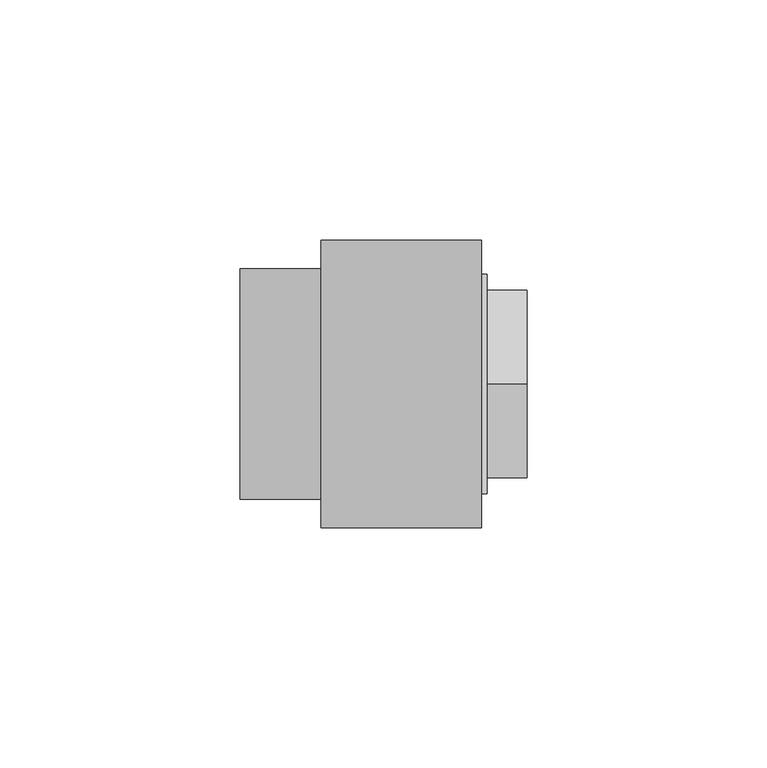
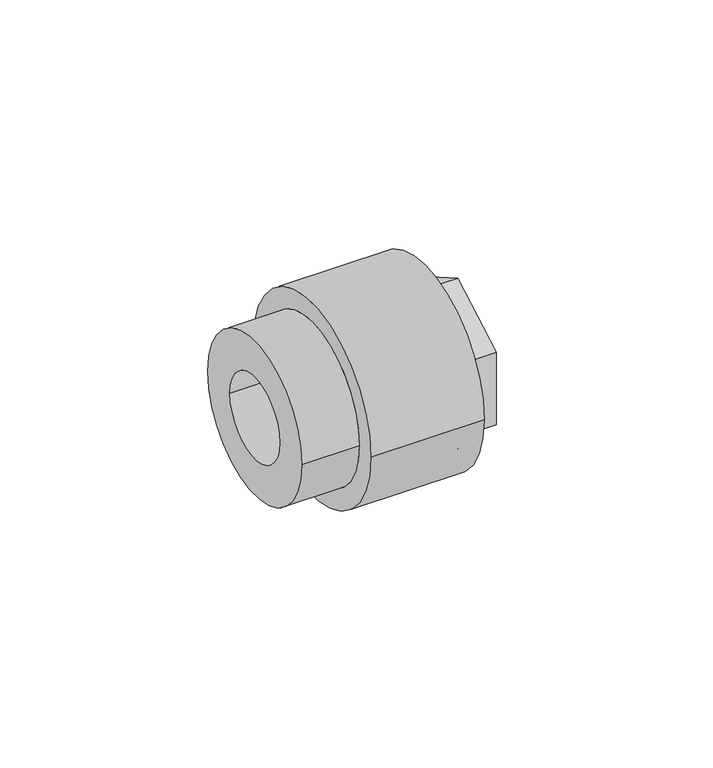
"""IFC4 building model written with IfcOpenShell, lengths in millimetres: pipe fitting geometry, Aquatherm - Fusion Outlet Transition Female : POTABLE BRASS - HEX."""

from ifc_helpers import new_model, si_unit, frame, origin, place, context, project, spatial, polyline, circle_curve, source, transform, mapped, element, save
from ifc_brep_helpers import plane_surface, cylinder_surface, revolved_surface, advanced_brep


def pipe_fitting_bcff8dfc(model_context):
    return source(origin(), model_context, "Body", "AdvancedBrep", [
        advanced_brep(
        [(25.4635, 15.875, 0.0), (25.4635, -15.875, 0.0), (40.3463125, -15.875, 0.0), (40.3463125, 15.875, 0.0), (25.4635, 16.66875, 0.0), (25.4635, -16.66875, 0.0), (22.2885, 16.66875, 0.0), (22.2885, -16.66875, 0.0), (22.2885, 12.7, 0.0), (22.2885, -12.7, 0.0), (19.1135, 12.7, 0.0), (19.1135, -12.7, 0.0), (19.1135, 24.003, 0.0), (19.1135, -24.003, 0.0), (33.401, 24.003, 0.0), (33.401, -24.003, 0.0), (42.926, 16.66875, 0.0), (42.926, -16.66875, 0.0), (42.926, -19.558, 0.0), (42.926, -19.558, -11.2918166), (42.926, 0.0, -22.5836331), (42.926, 19.558, -11.2918166), (42.926, 19.558, 0.0), (42.926, 19.558, 11.2918166), (42.926, 0.0, 22.5836331), (42.926, -19.558, 11.2918166), (33.401, 22.86, 0.0), (33.401, -22.86, 0.0), (34.591625, 22.86, 0.0), (34.591625, -22.86, 0.0), (34.591625, 0.0, -22.5836331), (34.591625, -19.558, -11.2918166), (34.591625, -19.558, 11.2918166), (34.591625, 0.0, 22.5836331), (34.591625, 19.558, 11.2918166), (34.591625, 19.558, -11.2918166)],
        [
            (0, 1, circle_curve(frame((25.4635, 0.0, 0.0), z_axis=(-1.0, 0.0, 0.0), x_axis=(0.0, -1.0, 0.0)), 15.875)),
            (1, 2),
            (2, 3, circle_curve(frame((40.3463125, 0.0, 0.0), z_axis=(1.0, 0.0, 0.0), x_axis=(0.0, -1.0, 0.0)), 15.875)),
            (3, 0),
            (1, 0, circle_curve(frame((25.4635, 0.0, 0.0), z_axis=(-1.0, 0.0, 0.0), x_axis=(0.0, -1.0, 0.0)), 15.875)),
            (3, 2, circle_curve(frame((40.3463125, 0.0, 0.0), z_axis=(1.0, 0.0, 0.0), x_axis=(0.0, -1.0, 0.0)), 15.875)),
            (0, 4),
            (4, 5, circle_curve(frame((25.4635, 0.0, 0.0), z_axis=(-1.0, 0.0, 0.0), x_axis=(0.0, -1.0, 0.0)), 16.66875)),
            (5, 1),
            (5, 4, circle_curve(frame((25.4635, 0.0, 0.0), z_axis=(-1.0, 0.0, 0.0), x_axis=(0.0, -1.0, 0.0)), 16.66875)),
            (4, 6),
            (6, 7, circle_curve(frame((22.2885, 0.0, 0.0), z_axis=(-1.0, 0.0, 0.0), x_axis=(0.0, -1.0, 0.0)), 16.66875)),
            (7, 5),
            (7, 6, circle_curve(frame((22.2885, 0.0, 0.0), z_axis=(-1.0, 0.0, 0.0), x_axis=(0.0, -1.0, 0.0)), 16.66875)),
            (6, 8),
            (8, 9, circle_curve(frame((22.2885, 0.0, 0.0), z_axis=(-1.0, 0.0, 0.0), x_axis=(0.0, -1.0, 0.0)), 12.7)),
            (9, 7),
            (9, 8, circle_curve(frame((22.2885, 0.0, 0.0), z_axis=(-1.0, 0.0, 0.0), x_axis=(0.0, -1.0, 0.0)), 12.7)),
            (8, 10),
            (10, 11, circle_curve(frame((19.1135, 0.0, 0.0), z_axis=(-1.0, 0.0, 0.0), x_axis=(0.0, -1.0, 0.0)), 12.7)),
            (11, 9),
            (11, 10, circle_curve(frame((19.1135, 0.0, 0.0), z_axis=(-1.0, 0.0, 0.0), x_axis=(0.0, -1.0, 0.0)), 12.7)),
            (10, 12),
            (12, 13, circle_curve(frame((19.1135, 0.0, 0.0), z_axis=(-1.0, 0.0, 0.0), x_axis=(0.0, -1.0, 0.0)), 24.003)),
            (13, 11),
            (13, 12, circle_curve(frame((19.1135, 0.0, 0.0), z_axis=(-1.0, 0.0, 0.0), x_axis=(0.0, -1.0, 0.0)), 24.003)),
            (12, 14),
            (14, 15, circle_curve(frame((33.401, 0.0, 0.0), z_axis=(-1.0, 0.0, 0.0), x_axis=(0.0, -1.0, 0.0)), 24.003)),
            (15, 13),
            (15, 14, circle_curve(frame((33.401, 0.0, 0.0), z_axis=(-1.0, 0.0, 0.0), x_axis=(0.0, -1.0, 0.0)), 24.003)),
            (16, 17, circle_curve(frame((42.926, 0.0, 0.0), z_axis=(-1.0, 0.0, 0.0), x_axis=(0.0, -1.0, 0.0)), 16.66875)),
            (17, 18),
            (18, 19),
            (19, 20),
            (20, 21),
            (21, 22),
            (22, 16),
            (17, 16, circle_curve(frame((42.926, 0.0, 0.0), z_axis=(-1.0, 0.0, 0.0), x_axis=(0.0, -1.0, 0.0)), 16.66875)),
            (22, 23),
            (23, 24),
            (24, 25),
            (25, 18),
            (2, 17),
            (16, 3),
            (14, 26),
            (26, 27, circle_curve(frame((33.401, 0.0, 0.0), z_axis=(-1.0, 0.0, 0.0), x_axis=(0.0, -1.0, 0.0)), 22.86)),
            (27, 15),
            (27, 26, circle_curve(frame((33.401, 0.0, 0.0), z_axis=(-1.0, 0.0, 0.0), x_axis=(0.0, -1.0, 0.0)), 22.86)),
            (26, 28),
            (28, 29, circle_curve(frame((34.591625, 0.0, 0.0), z_axis=(-1.0, 0.0, 0.0), x_axis=(0.0, -1.0, 0.0)), 22.86)),
            (29, 27),
            (29, 28, circle_curve(frame((34.591625, 0.0, 0.0), z_axis=(-1.0, 0.0, 0.0), x_axis=(0.0, -1.0, 0.0)), 22.86)),
            (30, 31),
            (31, 32),
            (32, 33),
            (33, 34),
            (34, 35),
            (35, 30),
            (35, 21),
            (20, 30),
            (34, 23),
            (33, 24),
            (32, 25),
            (31, 19),
        ],
        [
            revolved_surface(polyline([(40.3463125, -15.875, 0.0), (25.4635, -15.875, 0.0)]), (44.7592251, 0.0, 0.0), (1.0, 0.0, 0.0)),
            plane_surface(frame((25.4635, 0.0, 0.0), z_axis=(-1.0, 0.0, 0.0), x_axis=(0.0, -1.0, 0.0))),
            revolved_surface(polyline([(25.4635, -16.66875, 0.0), (22.2885, -16.66875, 0.0)]), (44.7592251, 0.0, 0.0), (1.0, 0.0, 0.0)),
            plane_surface(frame((22.2885, 0.0, 0.0), z_axis=(1.0, 0.0, 0.0), x_axis=(0.0, -1.0, 0.0))),
            revolved_surface(polyline([(22.2885, -12.7, 0.0), (19.1135, -12.7, 0.0)]), (44.7592251, 0.0, 0.0), (1.0, 0.0, 0.0)),
            plane_surface(frame((19.1135, 0.0, 0.0), z_axis=(-1.0, 0.0, 0.0), x_axis=(0.0, -1.0, 0.0))),
            cylinder_surface(frame((44.7592251, 0.0, 0.0), z_axis=(1.0, 0.0, 0.0), x_axis=(0.0, -1.0, 0.0)), 24.003),
            plane_surface(frame((42.926, 0.0, 0.0), z_axis=(1.0, 0.0, 0.0), x_axis=(0.0, -1.0, 0.0))),
            revolved_surface(polyline([(42.926, -16.66875, 0.0), (40.3463125, -15.875, 0.0)]), (44.7592251, 0.0, 0.0), (1.0, 0.0, 0.0)),
            plane_surface(frame((33.401, 0.0, 0.0), z_axis=(1.0, 0.0, 0.0), x_axis=(0.0, -1.0, 0.0))),
            cylinder_surface(frame((44.7592251, 0.0, 0.0), z_axis=(1.0, 0.0, 0.0), x_axis=(0.0, -1.0, 0.0)), 22.86),
            plane_surface(frame((34.591625, 19.558, -11.2918166), z_axis=(1.0000000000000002, 0.0, 0.0), x_axis=(0.0, 0.8660254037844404, 0.4999999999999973))),
            plane_surface(frame((34.591625, 0.0, -22.5836331), z_axis=(0.0, 0.4999999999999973, -0.8660254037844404), x_axis=(1.0, 0.0, 0.0))),
            plane_surface(frame((34.591625, 19.558, -11.2918166), z_axis=(0.0, 1.0, 0.0), x_axis=(1.0, 0.0, 0.0))),
            plane_surface(frame((34.591625, 19.558, 11.2918166), z_axis=(0.0, 0.5000000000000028, 0.8660254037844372), x_axis=(1.0, 0.0, 0.0))),
            plane_surface(frame((34.591625, 0.0, 22.5836331), z_axis=(0.0, -0.49999999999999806, 0.8660254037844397), x_axis=(1.0, 0.0, 0.0))),
            plane_surface(frame((34.591625, -19.558, 11.2918166), z_axis=(0.0, -1.0, 0.0), x_axis=(1.0, 0.0, 0.0))),
            plane_surface(frame((34.591625, -19.558, -11.2918166), z_axis=(0.0, -0.5000000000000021, -0.8660254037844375), x_axis=(1.0, 0.0, 0.0))),
        ],
        [
            (0, [[1, 2, 3, 4]]),
            (0, [[-2, 5, -4, 6]]),
            (1, [[-1, 7, 8, 9]]),
            (1, [[-5, -9, 10, -7]]),
            (2, [[-8, 11, 12, 13]]),
            (2, [[-10, -13, 14, -11]]),
            (3, [[-12, 15, 16, 17]]),
            (3, [[-14, -17, 18, -15]]),
            (4, [[-16, 19, 20, 21]]),
            (4, [[-18, -21, 22, -19]]),
            (5, [[-20, 23, 24, 25]]),
            (5, [[-22, -25, 26, -23]]),
            (6, [[-24, 27, 28, 29]]),
            (6, [[-26, -29, 30, -27]]),
            (7, [[31, 32, 33, 34, 35, 36, 37]]),
            (7, [[38, -37, 39, 40, 41, 42, -32]]),
            (8, [[-3, 43, -31, 44]]),
            (8, [[-6, -44, -38, -43]]),
            (9, [[-28, 45, 46, 47]]),
            (9, [[-30, -47, 48, -45]]),
            (10, [[-46, 49, 50, 51]]),
            (10, [[-48, -51, 52, -49]]),
            (11, [[-50, -52], [53, 54, 55, 56, 57, 58]]),
            (12, [[-58, 59, -35, 60]]),
            (13, [[-57, 61, -39, -36, -59]]),
            (14, [[-56, 62, -40, -61]]),
            (15, [[-55, 63, -41, -62]]),
            (16, [[-54, 64, -33, -42, -63]]),
            (17, [[-53, -60, -34, -64]]),
        ],
    ),
        advanced_brep(
        [(-16.8875676, 24.003, 0.0), (-16.8875676, -24.003, 0.0), (-16.8875676, 12.7, 0.0), (-16.8875676, -12.7, 0.0), (19.1135, 24.003, 0.0), (19.1135, -24.003, 0.0), (19.1135, 12.7, 0.0), (19.1135, -12.7, 0.0), (0.0, 24.003, 0.0), (0.0, -24.003, 0.0), (33.401, 29.972, 0.0), (33.401, -29.972, 0.0), (33.401, 24.003, 0.0), (33.401, -24.003, 0.0), (0.0, 29.972, 0.0), (0.0, -29.972, 0.0)],
        [
            (0, 1, circle_curve(frame((-16.8875676, 0.0, 0.0), z_axis=(-1.0, 0.0, 0.0), x_axis=(0.0, -1.0, 0.0)), 24.003)),
            (1, 0, circle_curve(frame((-16.8875676, 0.0, 0.0), z_axis=(-1.0, 0.0, 0.0), x_axis=(0.0, -1.0, 0.0)), 24.003)),
            (2, 3, circle_curve(frame((-16.8875676, 0.0, 0.0), z_axis=(1.0, 0.0, 0.0), x_axis=(0.0, -1.0, 0.0)), 12.7)),
            (3, 2, circle_curve(frame((-16.8875676, 0.0, 0.0), z_axis=(1.0, 0.0, 0.0), x_axis=(0.0, -1.0, 0.0)), 12.7)),
            (4, 5, circle_curve(frame((19.1135, 0.0, 0.0), z_axis=(1.0, 0.0, 0.0), x_axis=(0.0, -1.0, 0.0)), 24.003)),
            (5, 4, circle_curve(frame((19.1135, 0.0, 0.0), z_axis=(1.0, 0.0, 0.0), x_axis=(0.0, -1.0, 0.0)), 24.003)),
            (6, 7, circle_curve(frame((19.1135, 0.0, 0.0), z_axis=(-1.0, 0.0, 0.0), x_axis=(0.0, -1.0, 0.0)), 12.7)),
            (7, 6, circle_curve(frame((19.1135, 0.0, 0.0), z_axis=(-1.0, 0.0, 0.0), x_axis=(0.0, -1.0, 0.0)), 12.7)),
            (2, 6),
            (7, 3),
            (0, 8),
            (8, 9, circle_curve(frame((0.0, 0.0, 0.0), z_axis=(-1.0, 0.0, 0.0), x_axis=(0.0, -1.0, 0.0)), 24.003)),
            (9, 1),
            (9, 8, circle_curve(frame((0.0, 0.0, 0.0), z_axis=(-1.0, 0.0, 0.0), x_axis=(0.0, -1.0, 0.0)), 24.003)),
            (10, 11, circle_curve(frame((33.401, 0.0, 0.0), z_axis=(1.0, 0.0, 0.0), x_axis=(0.0, -1.0, 0.0)), 29.972)),
            (11, 10, circle_curve(frame((33.401, 0.0, 0.0), z_axis=(1.0, 0.0, 0.0), x_axis=(0.0, -1.0, 0.0)), 29.972)),
            (12, 13, circle_curve(frame((33.401, 0.0, 0.0), z_axis=(-1.0, 0.0, 0.0), x_axis=(0.0, -1.0, 0.0)), 24.003)),
            (13, 12, circle_curve(frame((33.401, 0.0, 0.0), z_axis=(-1.0, 0.0, 0.0), x_axis=(0.0, -1.0, 0.0)), 24.003)),
            (14, 15, circle_curve(frame((0.0, 0.0, 0.0), z_axis=(-1.0, 0.0, 0.0), x_axis=(0.0, -1.0, 0.0)), 29.972)),
            (15, 14, circle_curve(frame((0.0, 0.0, 0.0), z_axis=(-1.0, 0.0, 0.0), x_axis=(0.0, -1.0, 0.0)), 29.972)),
            (13, 5),
            (4, 12),
            (11, 15),
            (14, 10),
        ],
        [
            plane_surface(frame((-16.8875676, -12.7, 0.0), z_axis=(-1.0, 0.0, 0.0), x_axis=(0.0, 0.0, -1.0))),
            plane_surface(frame((19.1135, -12.7, 0.0), z_axis=(1.0, 0.0, 0.0), x_axis=(0.0, 0.0, 1.0))),
            revolved_surface(polyline([(19.1135, -12.7, 0.0), (-16.8875676, -12.7, 0.0)]), (19.1135, 0.0, 0.0), (1.0, 0.0, 0.0)),
            cylinder_surface(frame((0.0, 0.0, 0.0), z_axis=(-1.0, 0.0, 0.0), x_axis=(0.0, -1.0, 0.0)), 24.003),
            plane_surface(frame((33.401, -24.003, 0.0), z_axis=(1.0, 0.0, 0.0), x_axis=(0.0, 0.0, 1.0))),
            plane_surface(frame((0.0, -24.003, 0.0), z_axis=(-1.0, 0.0, 0.0), x_axis=(0.0, 0.0, -1.0))),
            revolved_surface(polyline([(33.401, -24.003, 0.0), (19.1135, -24.003, 0.0)]), (33.401, 0.0, 0.0), (1.0, 0.0, 0.0)),
            cylinder_surface(frame((0.0, 0.0, 0.0), z_axis=(-1.0, 0.0, 0.0), x_axis=(0.0, -1.0, 0.0)), 29.972),
        ],
        [
            (0, [[1, 2], [3, 4]]),
            (1, [[5, 6], [7, 8]]),
            (2, [[-3, 9, -8, 10]]),
            (2, [[-4, -10, -7, -9]]),
            (3, [[-1, 11, 12, 13]]),
            (3, [[-2, -13, 14, -11]]),
            (4, [[15, 16], [17, 18]]),
            (5, [[19, 20], [-12, -14]]),
            (6, [[-18, 21, -5, 22]]),
            (6, [[-17, -22, -6, -21]]),
            (7, [[-16, 23, -19, 24]]),
            (7, [[-15, -24, -20, -23]]),
        ],
    ),
    ])


if __name__ == "__main__":
    model = new_model("IFC4")
    model_context = context("Model", 3, world=origin())
    ifc_project = project(units=[si_unit("LENGTHUNIT", "METRE", prefix="MILLI")], contexts=[model_context])
    site = spatial("IfcSite", under=ifc_project)
    building = spatial("IfcBuilding", under=site)
    placement = place(None, origin())
    pipe_fitting_shape = pipe_fitting_bcff8dfc(model_context)
    element("IfcPipeFitting", 1, ObjectType="Aquatherm - Fusion Outlet Transition Female : POTABLE BRASS - HEX", at=placement, inside=building, context=model_context, shape_type="MappedRepresentation", body=[
        mapped(pipe_fitting_shape, transform((0.0, 0.0, 0.0), x_axis=(1.0, 0.0, 0.0), y_axis=(0.0, 1.0, 0.0), z_axis=(0.0, 0.0, 1.0))),
    ])
    save(model, "model.ifc")
